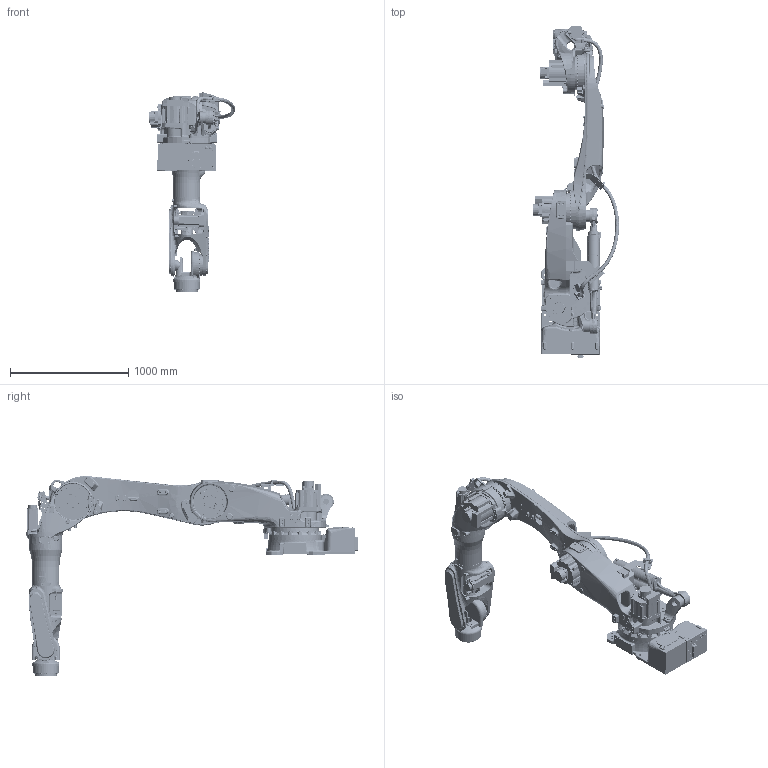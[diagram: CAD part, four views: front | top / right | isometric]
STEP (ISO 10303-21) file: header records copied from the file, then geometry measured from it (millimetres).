
FILE_DESCRIPTION(('CATIA V5 STEP Exchange','CAx-IF Rec.Pracs.--- Composite Materials ---3.4---2017-06-13'),'2;1');
FILE_NAME('D:\モデリング\☆☆☆STEP\BTP\BTP210L-A001_210909\軽量化_STEP\Part\STEP\BTP210L-A001.stp','2021-09-29T00:08:43+00:00',('none'),('none'),'CATIA Version 5-6 Release 2020 SP4 HF8','CATIA V5 STEP AP203 v2','none');
FILE_SCHEMA(('CONFIG_CONTROL_DESIGN'));
Products named in the file (1): BTP210L-A001
Assembly tree (9 placements, depth 2):
  BTP210L-A001
    #57
    #54723
    #163838
    #267270
    #344654
    #443858
    #469038
    #472419
    #489829
Bounding box: 728.79 x 2809.71 x 1692.29 mm (x, y, z)
Volume: 228920879.8 mm3; surface area: 12547440.3 mm2
Topology: 53 solids, 53 shells, 10867 faces, 27377 edges, 16833 vertices
Faces by surface type: plane 3338, cylinder 3269, bspline 2493, cone 862, torus 492, extrusion 188, sphere 162, revolution 63
Entity records: 512122 total; most frequent: CARTESIAN_POINT 291159, ORIENTED_EDGE 53610, DIRECTION 29526, EDGE_CURVE 26805, VERTEX_POINT 16833, AXIS2_PLACEMENT_3D 13825, EDGE_LOOP 11920, ADVANCED_FACE 10867
